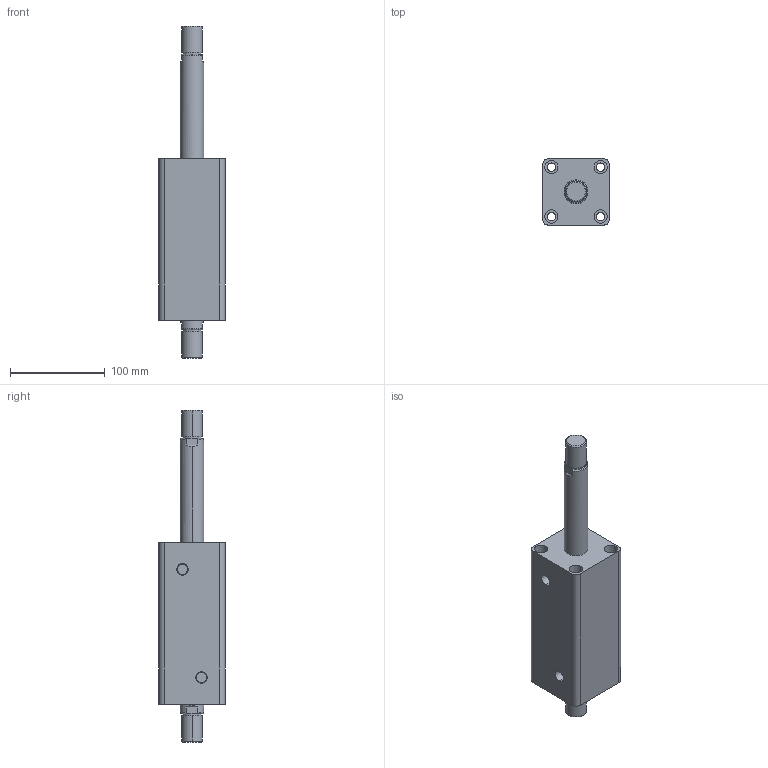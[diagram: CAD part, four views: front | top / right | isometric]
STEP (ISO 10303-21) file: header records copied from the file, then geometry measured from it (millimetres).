
FILE_DESCRIPTION (( 'STEP AP203' ), '1' );
FILE_NAME ('HTB-SW40-100W.STEP', '2019-10-07T09:14:18', ( '微软用户' ), ( '微软中国' ), 'SwSTEP 2.0', 'SolidWorks 2012', '' );
FILE_SCHEMA (( 'CONFIG_CONTROL_DESIGN' ));
Length unit declared in the file: millimetre
Products named in the file (3): HTB-SW40-100W; HTB-SW40-100W活塞杆; HTB-SW40-100掛极
Assembly tree (2 placements, depth 2):
  HTB-SW40-100W
    HTB-SW40-100掛极
    HTB-SW40-100W活塞杆
Bounding box: 70 x 70 x 350 mm (x, y, z)
Volume: 780361.6 mm3; surface area: 125715.3 mm2
Topology: 2 solids, 2 shells, 108 faces, 240 edges, 156 vertices
Faces by surface type: cylinder 52, plane 36, torus 12, cone 8
Entity records: 3449 total; most frequent: CARTESIAN_POINT 629, DIRECTION 586, ORIENTED_EDGE 480, AXIS2_PLACEMENT_3D 249, EDGE_CURVE 240, VERTEX_POINT 156, EDGE_LOOP 138, CIRCLE 136
